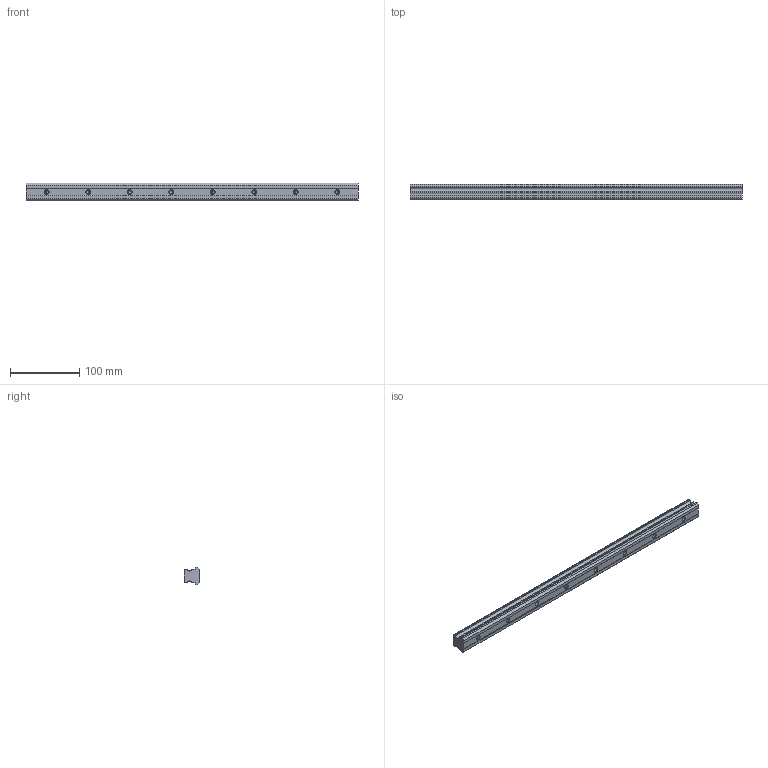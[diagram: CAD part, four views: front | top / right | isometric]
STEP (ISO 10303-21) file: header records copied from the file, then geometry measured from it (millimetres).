
FILE_DESCRIPTION (( 'STEP AP203' ), '1' );
FILE_NAME ('L1018.25R-0480.step', '2023-08-06T10:33:11', ( '' ), ( '' ), 'SwSTEP 2.0', 'SolidWorks 2019', '' );
FILE_SCHEMA (( 'CONFIG_CONTROL_DESIGN' ));
Length unit declared in the file: millimetre
Products named in the file (1): L1018.25R-0480
Bounding box: 480 x 21.8 x 25 mm (x, y, z)
Volume: 199626.3 mm3; surface area: 48509 mm2
Topology: 1 solids, 1 shells, 101 faces, 241 edges, 142 vertices
Faces by surface type: cylinder 35, plane 34, cone 32
Entity records: 2870 total; most frequent: DIRECTION 515, CARTESIAN_POINT 469, ORIENTED_EDGE 450, EDGE_CURVE 225, AXIS2_PLACEMENT_3D 188, VERTEX_POINT 142, VECTOR 139, LINE 139
